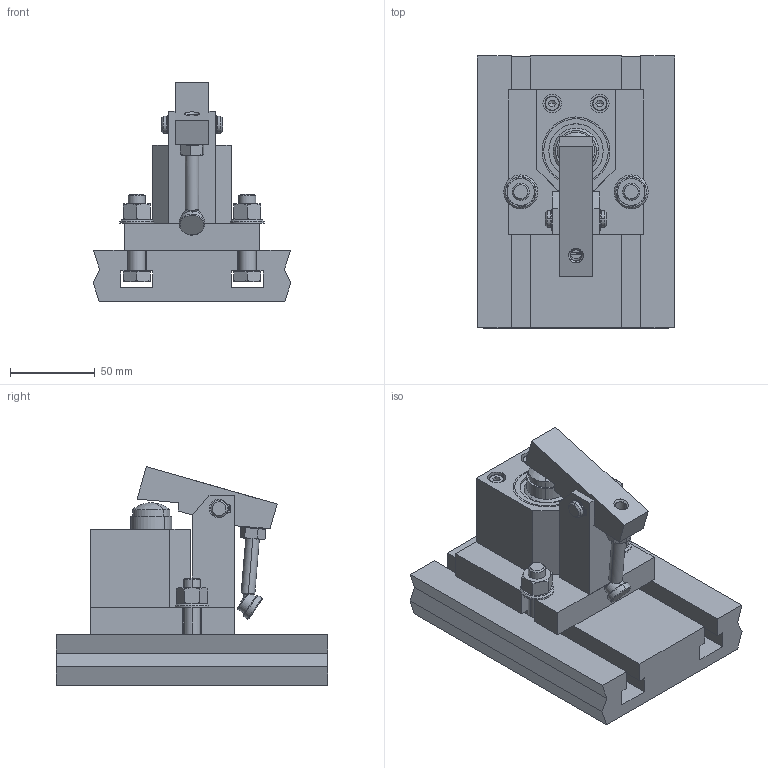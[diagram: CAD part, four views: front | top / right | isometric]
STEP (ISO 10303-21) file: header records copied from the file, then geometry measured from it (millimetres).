
FILE_DESCRIPTION(('FreeCAD Model'),'2;1');
FILE_NAME('D:/MyCAD/bride_hydrau_asm3-r2.step','2018-05-05T18:39:52',( 'kicad StepUp'),('ksu MCAD'),'Open CASCADE STEP processor 7.0', 'FreeCAD','Unknown');
FILE_SCHEMA(('AUTOMOTIVE_DESIGN { 1 0 10303 214 1 1 1 1 }'));
Length unit declared in the file: millimetre
Products named in the file (32): ensemble_bride_copy; bati_copy; vis_CHc_M5-50_copy; table_MO_copy; socle_copy; corps_verin_copy; chape_copy; axe_levier_copy; chemise_copy; couvercle_copy; joint_couv_copy; vis_CHc_M10-40_copy; vis_CHc_M5-50_copy001; Washer_ISO_7090_-_10_Washer_ISO_7090_-_10_copy; Washer_ISO_7090_-_10_Washer_ISO_7090_-_10_copy001; ISO_4014_-_M10_x_45_x_26-N_ISO_4014_-_M10_x_45_x_26-N_copy; ISO_4014_-_M10_x_45_x_26-N_ISO_4014_-_M10_x_45_x_26-N_copy001; Hexagon_Nut_ISO_-_4034_-_M10_-_N_Hexagon_Nut_ISO_-_4034_-_M10_-_N_copy; Hexagon_Nut_ISO_-_4034_-_M10_-_N_Hexagon_Nut_ISO_-_4034_-_M10_-_N_
copy001; Truarc_5100-37_-_S0.375_Truarc_5100-37_-_S0.375_copy; Truarc_5100-37_-_S0.375_Truarc_5100-37_-_S0.375_copy001; piston_copy; piston_copy001; joint_piston_copy; embout_copy; Body_copy; levier_copy; levier_copy001; ecrou_Hm_M8_copy; Body002_copy; patin_copy; Body001_copy
Assembly tree (31 placements, depth 3):
  ensemble_bride_copy
    bati_copy
      vis_CHc_M5-50_copy
      table_MO_copy
      socle_copy
      corps_verin_copy
      chape_copy
      axe_levier_copy
      chemise_copy
      couvercle_copy
      joint_couv_copy
      vis_CHc_M10-40_copy
      vis_CHc_M5-50_copy001
      Washer_ISO_7090_-_10_Washer_ISO_7090_-_10_copy
      Washer_ISO_7090_-_10_Washer_ISO_7090_-_10_copy001
      ISO_4014_-_M10_x_45_x_26-N_ISO_4014_-_M10_x_45_x_26-N_copy
      ISO_4014_-_M10_x_45_x_26-N_ISO_4014_-_M10_x_45_x_26-N_copy001
      Hexagon_Nut_ISO_-_4034_-_M10_-_N_Hexagon_Nut_ISO_-_4034_-_M10_-_N_copy
      Hexagon_Nut_ISO_-_4034_-_M10_-_N_Hexagon_Nut_ISO_-_4034_-_M10_-_N_
copy001
      Truarc_5100-37_-_S0.375_Truarc_5100-37_-_S0.375_copy
      Truarc_5100-37_-_S0.375_Truarc_5100-37_-_S0.375_copy001
    piston_copy
      piston_copy001
      joint_piston_copy
      embout_copy
      Body_copy
    levier_copy
      levier_copy001
      ecrou_Hm_M8_copy
      Body002_copy
    patin_copy
      Body001_copy
Bounding box: 116.27 x 160 x 128.79 mm (x, y, z)
Volume: 736263.1 mm3; surface area: 168060.8 mm2
Topology: 27 solids, 27 shells, 548 faces, 1304 edges, 827 vertices
Faces by surface type: plane 208, cylinder 197, cone 111, bspline 24, torus 4, sphere 4
Entity records: 18826 total; most frequent: CARTESIAN_POINT 5251, DIRECTION 2812, ORIENTED_EDGE 2574, EDGE_CURVE 1287, AXIS2_PLACEMENT_3D 1123, VERTEX_POINT 827, FACE_BOUND 630, EDGE_LOOP 630
